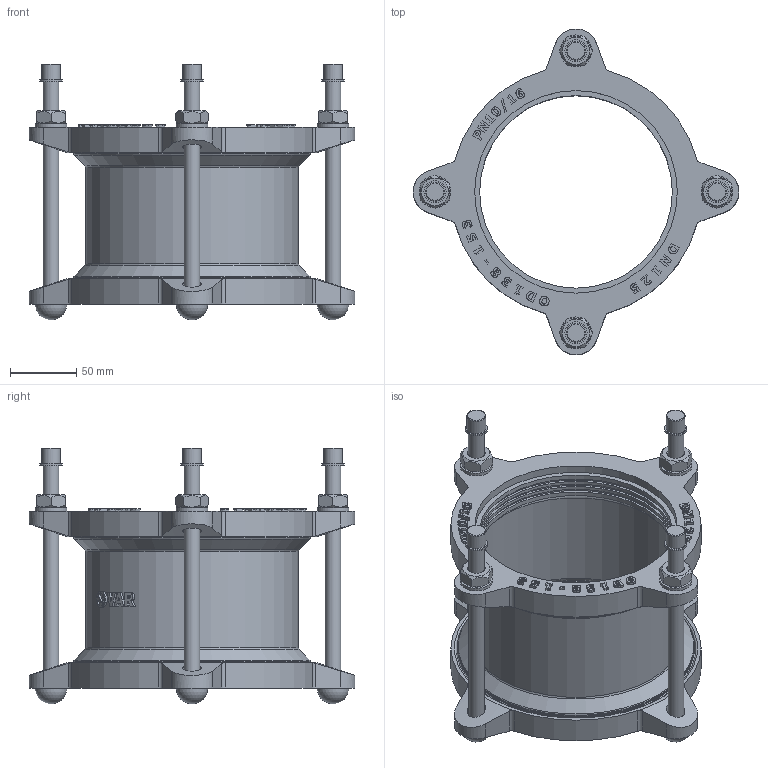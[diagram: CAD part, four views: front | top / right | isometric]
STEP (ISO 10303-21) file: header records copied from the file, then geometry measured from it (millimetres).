
FILE_DESCRIPTION(('STEP AP203'), '1');
FILE_NAME('Cîåäèíèòåëüíàÿ ìóôòà äëÿ æåñòêèõ òðóá', '', ('UNSPECIFIED'), ('UNSPECIFIED'), 'C3D Converter', 'C3D Toolkit', '');
FILE_SCHEMA(('CONFIG_CONTROL_DESIGN'));
Length unit declared in the file: millimetre
Assembly tree (21 placements, depth 2):
  (unnamed)
    (unnamed)
    (unnamed)  x4
    (unnamed)  x4
    (unnamed)  x4
    (unnamed)  x4
    (unnamed)
    (unnamed)
    (unnamed)  x2
Bounding box: 246 x 246 x 193.2 mm (x, y, z)
Volume: 859219.1 mm3; surface area: 345350.6 mm2
Topology: 25 solids, 25 shells, 822 faces, 2095 edges, 1378 vertices
Faces by surface type: extrusion 348, plane 309, cylinder 105, cone 34, torus 22, sphere 4
Full cylindrical faces by diameter (mm): 12 x12, 12.253 x1, 13 x4, 14 x8, 14.4 x4, 16.8 x4, 24 x4, 145.5 x8, 149.25 x6, 153 x3, 157 x2, 161 x3, 179 x2, 181 x4
Entity records: 32418 total; most frequent: CARTESIAN_POINT 11047, ORIENTED_EDGE 3658, DIRECTION 2325, EDGE_CURVE 1829, VERTEX_POINT 1248, VECTOR 1225, B_SPLINE_CURVE_WITH_KNOTS 1108, LINE 877
